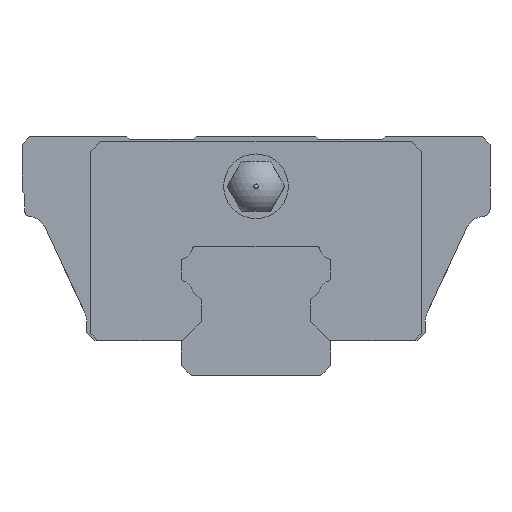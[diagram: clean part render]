
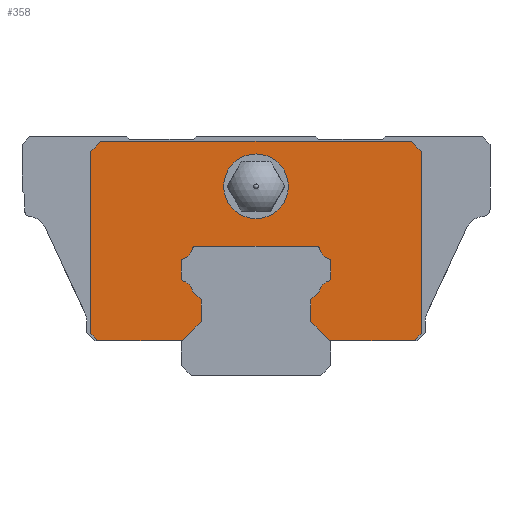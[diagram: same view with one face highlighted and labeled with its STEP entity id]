
A CAD part, front view. The second image highlights one B-rep face of the part: STEP entity #358.
In plain terms, the highlighted planar face has unit normal (0, -1, 0).
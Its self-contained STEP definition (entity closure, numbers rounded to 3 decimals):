
#358=ADVANCED_FACE('',(#765,#766),#767,.T.);
#765=FACE_OUTER_BOUND('',#1180,.T.);
#766=FACE_BOUND('',#1181,.T.);
#767=PLANE('',#1182);
#1180=EDGE_LOOP('',(#2770,#2771,#2772,#2773,#2774,#2775,#2776,#2777,#2778,#2779,#2780,#2781,#2782,#2783,#2784,#2785,#2786,#2787,#2788,#2789,#2790,#2791,#2792,#2793,#2794,#2795,#2796,#2797));
#1181=EDGE_LOOP('',(#2798,#2799,#2800));
#1182=AXIS2_PLACEMENT_3D('',#2801,#2802,#2803);
#2770=ORIENTED_EDGE('',*,*,#3153,.F.);
#2771=ORIENTED_EDGE('',*,*,#3236,.F.);
#2772=ORIENTED_EDGE('',*,*,#3262,.F.);
#2773=ORIENTED_EDGE('',*,*,#3207,.F.);
#2774=ORIENTED_EDGE('',*,*,#3385,.F.);
#2775=ORIENTED_EDGE('',*,*,#3285,.F.);
#2776=ORIENTED_EDGE('',*,*,#3290,.F.);
#2777=ORIENTED_EDGE('',*,*,#3379,.F.);
#2778=ORIENTED_EDGE('',*,*,#3306,.F.);
#2779=ORIENTED_EDGE('',*,*,#3351,.F.);
#2780=ORIENTED_EDGE('',*,*,#3176,.F.);
#2781=ORIENTED_EDGE('',*,*,#3294,.F.);
#2782=ORIENTED_EDGE('',*,*,#3378,.F.);
#2783=ORIENTED_EDGE('',*,*,#3254,.F.);
#2784=ORIENTED_EDGE('',*,*,#3222,.F.);
#2785=ORIENTED_EDGE('',*,*,#3089,.F.);
#2786=ORIENTED_EDGE('',*,*,#3085,.F.);
#2787=ORIENTED_EDGE('',*,*,#3092,.F.);
#2788=ORIENTED_EDGE('',*,*,#3121,.F.);
#2789=ORIENTED_EDGE('',*,*,#3374,.T.);
#2790=ORIENTED_EDGE('',*,*,#3109,.T.);
#2791=ORIENTED_EDGE('',*,*,#3206,.T.);
#2792=ORIENTED_EDGE('',*,*,#3388,.T.);
#2793=ORIENTED_EDGE('',*,*,#3349,.T.);
#2794=ORIENTED_EDGE('',*,*,#3311,.T.);
#2795=ORIENTED_EDGE('',*,*,#3234,.T.);
#2796=ORIENTED_EDGE('',*,*,#3148,.T.);
#2797=ORIENTED_EDGE('',*,*,#3106,.T.);
#2798=ORIENTED_EDGE('',*,*,#3261,.F.);
#2799=ORIENTED_EDGE('',*,*,#3260,.F.);
#2800=ORIENTED_EDGE('',*,*,#3037,.F.);
#2801=CARTESIAN_POINT('',(0.0,-7.5,19.));
#2802=DIRECTION('',(0.0,-1.0,0.0));
#2803=DIRECTION('',(0.0,0.0,-1.0));
#3037=EDGE_CURVE('',#3707,#3710,#3711,.T.);
#3085=EDGE_CURVE('',#3802,#3803,#3804,.T.);
#3089=EDGE_CURVE('',#3803,#3810,#3811,.T.);
#3092=EDGE_CURVE('',#3815,#3802,#3816,.T.);
#3106=EDGE_CURVE('',#3820,#3839,#3841,.T.);
#3109=EDGE_CURVE('',#3847,#3845,#3848,.T.);
#3121=EDGE_CURVE('',#3863,#3815,#3864,.T.);
#3148=EDGE_CURVE('',#3914,#3820,#3915,.T.);
#3153=EDGE_CURVE('',#3922,#3839,#3923,.T.);
#3176=EDGE_CURVE('',#3961,#3962,#3963,.T.);
#3206=EDGE_CURVE('',#3845,#4013,#4015,.T.);
#3207=EDGE_CURVE('',#4016,#4017,#4018,.T.);
#3222=EDGE_CURVE('',#3810,#4039,#4040,.T.);
#3234=EDGE_CURVE('',#4058,#3914,#4059,.T.);
#3236=EDGE_CURVE('',#4061,#3922,#4062,.T.);
#3254=EDGE_CURVE('',#4039,#4093,#4094,.T.);
#3260=EDGE_CURVE('',#3710,#4102,#4103,.T.);
#3261=EDGE_CURVE('',#4102,#3707,#4104,.T.);
#3262=EDGE_CURVE('',#4017,#4061,#4105,.T.);
#3285=EDGE_CURVE('',#4137,#4138,#4139,.T.);
#3290=EDGE_CURVE('',#4146,#4137,#4147,.T.);
#3294=EDGE_CURVE('',#4152,#3961,#4153,.T.);
#3306=EDGE_CURVE('',#4172,#4173,#4174,.T.);
#3311=EDGE_CURVE('',#4182,#4058,#4183,.T.);
#3349=EDGE_CURVE('',#4232,#4182,#4233,.T.);
#3351=EDGE_CURVE('',#3962,#4172,#4235,.T.);
#3374=EDGE_CURVE('',#3863,#3847,#4267,.T.);
#3378=EDGE_CURVE('',#4093,#4152,#4272,.T.);
#3379=EDGE_CURVE('',#4173,#4146,#4273,.T.);
#3385=EDGE_CURVE('',#4138,#4016,#4279,.T.);
#3388=EDGE_CURVE('',#4013,#4232,#4282,.T.);
#3707=VERTEX_POINT('',#4709);
#3710=VERTEX_POINT('',#4713);
#3711=CIRCLE('',#4714,3.25);
#3802=VERTEX_POINT('',#4843);
#3803=VERTEX_POINT('',#4844);
#3804=LINE('',#4845,#4846);
#3810=VERTEX_POINT('',#4855);
#3811=CIRCLE('',#4856,1.4);
#3815=VERTEX_POINT('',#4861);
#3816=LINE('',#4862,#4863);
#3820=VERTEX_POINT('',#4869);
#3839=VERTEX_POINT('',#4896);
#3841=LINE('',#4899,#4900);
#3845=VERTEX_POINT('',#4905);
#3847=VERTEX_POINT('',#4908);
#3848=LINE('',#4909,#4910);
#3863=VERTEX_POINT('',#4929);
#3864=LINE('',#4930,#4931);
#3914=VERTEX_POINT('',#5000);
#3915=LINE('',#5001,#5002);
#3922=VERTEX_POINT('',#5013);
#3923=LINE('',#5014,#5015);
#3961=VERTEX_POINT('',#5075);
#3962=VERTEX_POINT('',#5076);
#3963=CIRCLE('',#5077,0.3);
#4013=VERTEX_POINT('',#5151);
#4015=LINE('',#5154,#5155);
#4016=VERTEX_POINT('',#5156);
#4017=VERTEX_POINT('',#5157);
#4018=CIRCLE('',#5158,1.4);
#4039=VERTEX_POINT('',#5185);
#4040=CIRCLE('',#5186,0.3);
#4058=VERTEX_POINT('',#5212);
#4059=LINE('',#5213,#5214);
#4061=VERTEX_POINT('',#5217);
#4062=LINE('',#5218,#5219);
#4093=VERTEX_POINT('',#5263);
#4094=LINE('',#5264,#5265);
#4102=VERTEX_POINT('',#5276);
#4103=CIRCLE('',#5277,3.25);
#4104=CIRCLE('',#5278,3.25);
#4105=LINE('',#5279,#5280);
#4137=VERTEX_POINT('',#5327);
#4138=VERTEX_POINT('',#5328);
#4139=LINE('',#5329,#5330);
#4146=VERTEX_POINT('',#5341);
#4147=CIRCLE('',#5342,0.3);
#4152=VERTEX_POINT('',#5348);
#4153=CIRCLE('',#5349,1.4);
#4172=VERTEX_POINT('',#5385);
#4173=VERTEX_POINT('',#5386);
#4174=CIRCLE('',#5387,0.3);
#4182=VERTEX_POINT('',#5398);
#4183=LINE('',#5399,#5400);
#4232=VERTEX_POINT('',#5478);
#4233=LINE('',#5479,#5480);
#4235=LINE('',#5483,#5484);
#4267=LINE('',#5534,#5535);
#4272=CIRCLE('',#5543,0.3);
#4273=CIRCLE('',#5544,1.4);
#4279=CIRCLE('',#5555,0.3);
#4282=LINE('',#5560,#5561);
#4709=CARTESIAN_POINT('',(0.,-7.5,22.25));
#4713=CARTESIAN_POINT('',(0.,-7.5,15.75));
#4714=AXIS2_PLACEMENT_3D('',#5913,#5914,#5915);
#4843=CARTESIAN_POINT('',(5.5,-7.5,7.6));
#4844=CARTESIAN_POINT('',(6.376,-7.5,8.476));
#4845=CARTESIAN_POINT('',(8.45,-7.5,10.55));
#4846=VECTOR('',#6005,1000.0);
#4855=CARTESIAN_POINT('',(7.295,-7.5,9.488));
#4856=AXIS2_PLACEMENT_3D('',#6009,#6010,#6011);
#4861=CARTESIAN_POINT('',(5.5,-7.5,5.4));
#4862=CARTESIAN_POINT('',(5.5,-7.5,19.));
#4863=VECTOR('',#6016,1000.0);
#4869=CARTESIAN_POINT('',(-15.9,-7.5,3.5));
#4896=CARTESIAN_POINT('',(-7.4,-7.5,3.5));
#4899=CARTESIAN_POINT('',(-15.9,-7.5,3.5));
#4900=VECTOR('',#6034,1000.0);
#4905=CARTESIAN_POINT('',(16.6,-7.5,4.2));
#4908=CARTESIAN_POINT('',(15.9,-7.5,3.5));
#4909=CARTESIAN_POINT('',(15.9,-7.5,3.5));
#4910=VECTOR('',#6037,1000.0);
#4929=CARTESIAN_POINT('',(7.4,-7.5,3.5));
#4930=CARTESIAN_POINT('',(-4.05,-7.5,14.95));
#4931=VECTOR('',#6063,1000.0);
#5000=CARTESIAN_POINT('',(-16.6,-7.5,4.2));
#5001=CARTESIAN_POINT('',(-16.6,-7.5,4.2));
#5002=VECTOR('',#6104,1000.0);
#5013=CARTESIAN_POINT('',(-5.5,-7.5,5.4));
#5014=CARTESIAN_POINT('',(4.05,-7.5,14.95));
#5015=VECTOR('',#6109,1000.0);
#5075=CARTESIAN_POINT('',(6.368,-7.5,12.76));
#5076=CARTESIAN_POINT('',(6.074,-7.5,13.));
#5077=AXIS2_PLACEMENT_3D('',#6150,#6151,#6152);
#5151=CARTESIAN_POINT('',(16.6,-7.5,22.5));
#5154=CARTESIAN_POINT('',(16.6,-7.5,4.2));
#5155=VECTOR('',#6199,1000.0);
#5156=CARTESIAN_POINT('',(-7.295,-7.5,9.488));
#5157=CARTESIAN_POINT('',(-6.376,-7.5,8.476));
#5158=AXIS2_PLACEMENT_3D('',#6200,#6201,#6202);
#5185=CARTESIAN_POINT('',(7.5,-7.5,9.772));
#5186=AXIS2_PLACEMENT_3D('',#6233,#6234,#6235);
#5212=CARTESIAN_POINT('',(-16.6,-7.5,22.5));
#5213=CARTESIAN_POINT('',(-16.6,-7.5,22.5));
#5214=VECTOR('',#6253,1000.0);
#5217=CARTESIAN_POINT('',(-5.5,-7.5,7.6));
#5218=CARTESIAN_POINT('',(-5.5,-7.5,19.));
#5219=VECTOR('',#6255,1000.0);
#5263=CARTESIAN_POINT('',(7.5,-7.5,11.428));
#5264=CARTESIAN_POINT('',(7.5,-7.5,19.));
#5265=VECTOR('',#6281,1000.0);
#5276=CARTESIAN_POINT('',(3.25,-7.5,19.));
#5277=AXIS2_PLACEMENT_3D('',#6291,#6292,#6293);
#5278=AXIS2_PLACEMENT_3D('',#6294,#6295,#6296);
#5279=CARTESIAN_POINT('',(-8.45,-7.5,10.55));
#5280=VECTOR('',#6297,1000.0);
#5327=CARTESIAN_POINT('',(-7.5,-7.5,11.428));
#5328=CARTESIAN_POINT('',(-7.5,-7.5,9.772));
#5329=CARTESIAN_POINT('',(-7.5,-7.5,19.));
#5330=VECTOR('',#6334,1000.0);
#5341=CARTESIAN_POINT('',(-7.295,-7.5,11.712));
#5342=AXIS2_PLACEMENT_3D('',#6339,#6340,#6341);
#5348=CARTESIAN_POINT('',(7.295,-7.5,11.712));
#5349=AXIS2_PLACEMENT_3D('',#6349,#6350,#6351);
#5385=CARTESIAN_POINT('',(-6.074,-7.5,13.0));
#5386=CARTESIAN_POINT('',(-6.368,-7.5,12.76));
#5387=AXIS2_PLACEMENT_3D('',#6366,#6367,#6368);
#5398=CARTESIAN_POINT('',(-15.6,-7.5,23.5));
#5399=CARTESIAN_POINT('',(-15.6,-7.5,23.5));
#5400=VECTOR('',#6375,1000.0);
#5478=CARTESIAN_POINT('',(15.6,-7.5,23.5));
#5479=CARTESIAN_POINT('',(15.6,-7.5,23.5));
#5480=VECTOR('',#6429,1000.0);
#5483=CARTESIAN_POINT('',(0.0,-7.5,13.0));
#5484=VECTOR('',#6431,1000.0);
#5534=CARTESIAN_POINT('',(-15.9,-7.5,3.5));
#5535=VECTOR('',#6462,1000.0);
#5543=AXIS2_PLACEMENT_3D('',#6466,#6467,#6468);
#5544=AXIS2_PLACEMENT_3D('',#6469,#6470,#6471);
#5555=AXIS2_PLACEMENT_3D('',#6477,#6478,#6479);
#5560=CARTESIAN_POINT('',(16.6,-7.5,22.5));
#5561=VECTOR('',#6482,1000.0);
#5913=CARTESIAN_POINT('',(0.0,-7.5,19.));
#5914=DIRECTION('',(0.0,-1.0,0.0));
#5915=DIRECTION('',(1.0,0.0,0.0));
#6005=DIRECTION('',(0.707,0.0,0.707));
#6009=CARTESIAN_POINT('',(7.74,-7.5,8.16));
#6010=DIRECTION('',(0.0,1.0,0.0));
#6011=DIRECTION('',(0.0,0.0,-1.0));
#6016=DIRECTION('',(0.0,0.0,1.0));
#6034=DIRECTION('',(1.0,0.0,0.));
#6037=DIRECTION('',(0.707,0.0,0.707));
#6063=DIRECTION('',(-0.707,0.0,0.707));
#6104=DIRECTION('',(0.707,0.0,-0.707));
#6109=DIRECTION('',(-0.707,0.0,-0.707));
#6150=CARTESIAN_POINT('',(6.074,-7.5,12.7));
#6151=DIRECTION('',(0.0,-1.0,0.0));
#6152=DIRECTION('',(0.0,0.0,-1.0));
#6199=DIRECTION('',(0.0,0.0,1.0));
#6200=CARTESIAN_POINT('',(-7.74,-7.5,8.16));
#6201=DIRECTION('',(0.0,1.0,0.0));
#6202=DIRECTION('',(0.0,0.0,-1.0));
#6233=CARTESIAN_POINT('',(7.2,-7.5,9.772));
#6234=DIRECTION('',(0.0,-1.0,0.0));
#6235=DIRECTION('',(0.0,0.0,-1.0));
#6253=DIRECTION('',(0.0,0.0,-1.0));
#6255=DIRECTION('',(0.0,0.0,-1.0));
#6281=DIRECTION('',(0.0,0.0,1.0));
#6291=CARTESIAN_POINT('',(0.0,-7.5,19.));
#6292=DIRECTION('',(0.0,-1.0,0.0));
#6293=DIRECTION('',(1.0,0.0,0.0));
#6294=CARTESIAN_POINT('',(0.0,-7.5,19.));
#6295=DIRECTION('',(0.0,-1.0,0.0));
#6296=DIRECTION('',(1.0,0.0,0.0));
#6297=DIRECTION('',(0.707,0.0,-0.707));
#6334=DIRECTION('',(0.0,0.0,-1.0));
#6339=CARTESIAN_POINT('',(-7.2,-7.5,11.428));
#6340=DIRECTION('',(0.0,-1.0,0.0));
#6341=DIRECTION('',(0.0,0.0,-1.0));
#6349=CARTESIAN_POINT('',(7.74,-7.5,13.04));
#6350=DIRECTION('',(0.0,1.0,0.0));
#6351=DIRECTION('',(0.0,0.0,-1.0));
#6366=CARTESIAN_POINT('',(-6.074,-7.5,12.7));
#6367=DIRECTION('',(0.0,-1.0,0.0));
#6368=DIRECTION('',(0.0,0.0,-1.0));
#6375=DIRECTION('',(-0.707,0.0,-0.707));
#6429=DIRECTION('',(-1.0,0.0,0.0));
#6431=DIRECTION('',(-1.0,0.0,0.0));
#6462=DIRECTION('',(1.0,0.0,0.));
#6466=CARTESIAN_POINT('',(7.2,-7.5,11.428));
#6467=DIRECTION('',(0.0,-1.0,0.0));
#6468=DIRECTION('',(0.0,0.0,-1.0));
#6469=CARTESIAN_POINT('',(-7.74,-7.5,13.04));
#6470=DIRECTION('',(0.0,1.0,0.0));
#6471=DIRECTION('',(0.0,0.0,-1.0));
#6477=CARTESIAN_POINT('',(-7.2,-7.5,9.772));
#6478=DIRECTION('',(0.0,-1.0,0.0));
#6479=DIRECTION('',(0.0,0.0,-1.0));
#6482=DIRECTION('',(-0.707,0.0,0.707));
